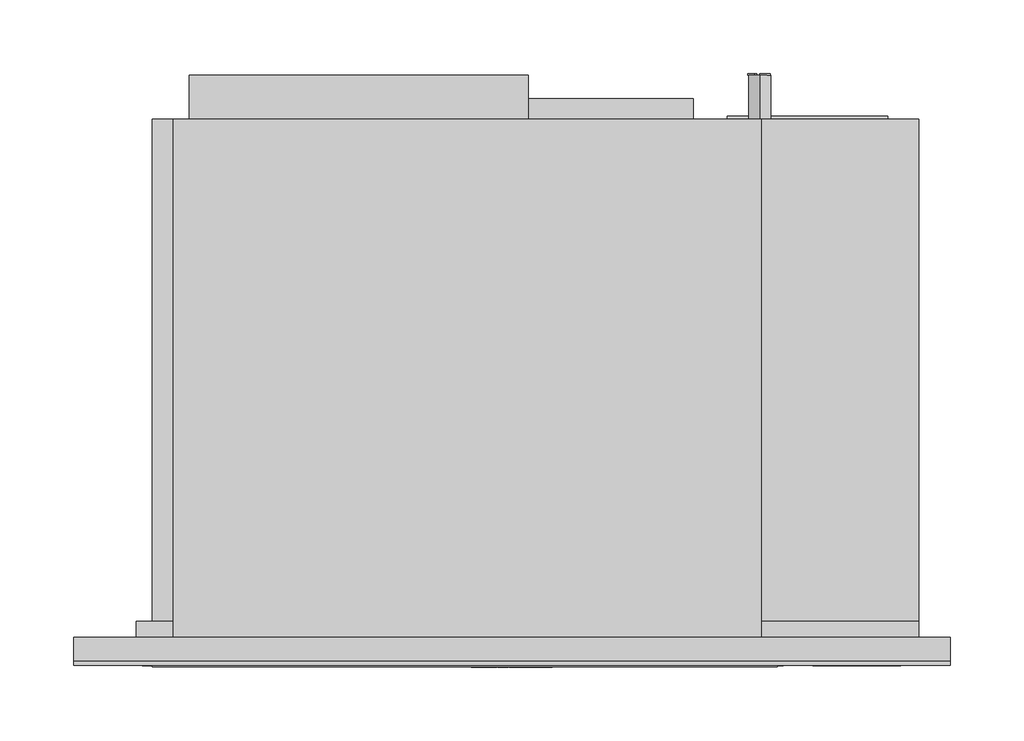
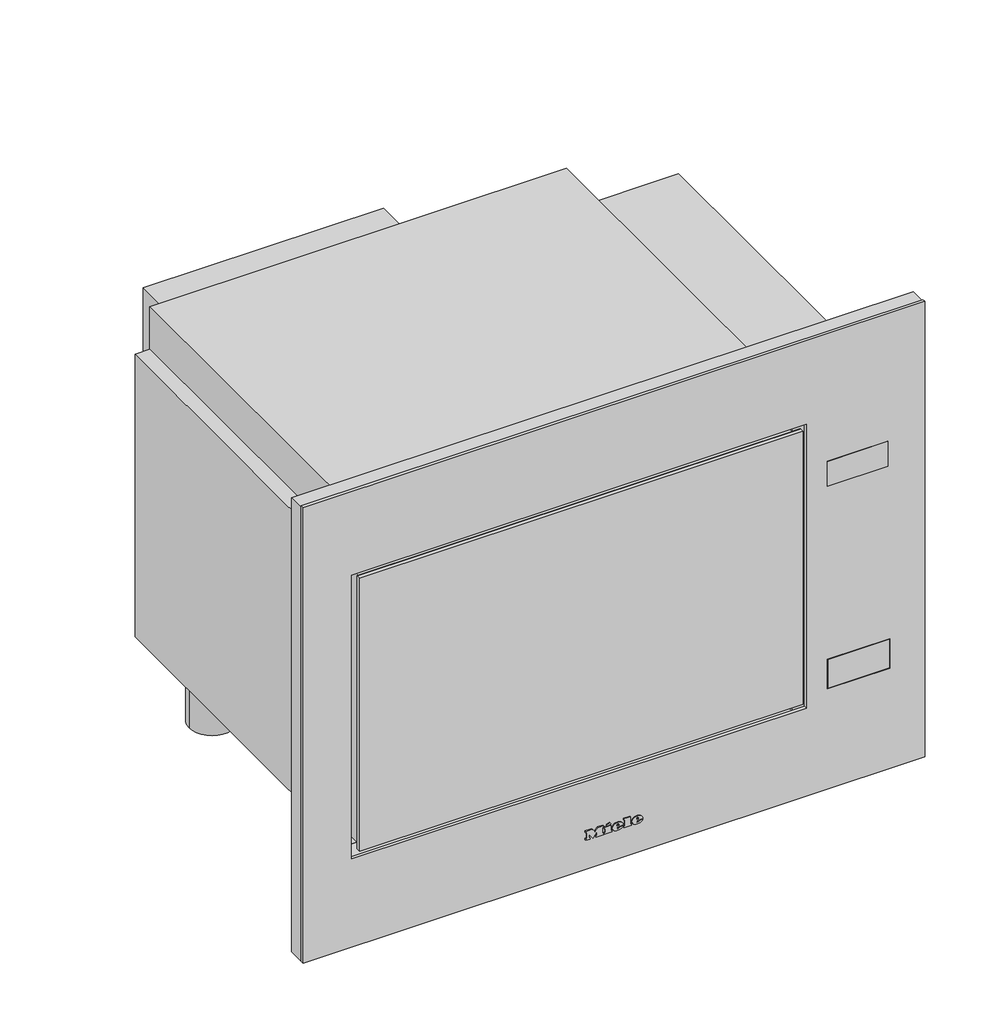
# Not in any storey: 1 proxy.
"""IFC4 building model written with IfcOpenShell, lengths in millimetres."""

import ifcopenshell
import ifcopenshell.guid

model = None  # the IFC model being written
_history = None  # IfcOwnerHistory: only IFC2X3 demands one
_inside = {}  # id of a spatial element -> (the spatial element, [elements in it])
_under = {}  # id of a project, library or spatial element -> (it, [spatial elements below it])
_declared = {}  # id of a project -> (the project, [libraries it declares])
_typed = {}  # id of a type object -> (the type object, [elements of that type])
_made_of = {}  # id of a material, layer set ... -> (it, [elements and type objects made of it])


def new_model(schema):
    """Start an empty IFC model of exactly this schema.

    Asked for "IFC4X3", IfcOpenShell would pick the latest addendum, in which some entities
    have other attributes; the version numbers below select the first issue.
    IFC2X3 requires an IfcOwnerHistory on every rooted entity: one is made here for all.
    """
    global model, _history
    if schema == "IFC4X3":
        model = ifcopenshell.file(schema_version=(4, 3, 0, 0))
    else:
        model = ifcopenshell.file(schema=schema)
    _inside.clear()
    _under.clear()
    _declared.clear()
    _typed.clear()
    _made_of.clear()
    _history = None
    if model.schema == "IFC2X3":
        org = make("IfcOrganization", Name="unknown")
        user = make(
            "IfcPersonAndOrganization",
            ThePerson=make("IfcPerson", FamilyName="unknown"),
            TheOrganization=org,
        )
        app = make(
            "IfcApplication",
            ApplicationDeveloper=org,
            Version="unknown",
            ApplicationFullName="unknown",
            ApplicationIdentifier="unknown",
        )
        _history = make(
            "IfcOwnerHistory",
            OwningUser=user,
            OwningApplication=app,
            ChangeAction="ADDED",
            CreationDate=0,
        )
    return model


def make(cls, **values):
    """One entity of the class cls with the attributes given. An attribute that is None is left unset."""
    return model.create_entity(
        cls, **{name: value for name, value in values.items() if value is not None}
    )


def rooted(cls, **values):
    """An entity with a GlobalId (a new one), such as an element, a storey or a relation."""
    return make(cls, GlobalId=ifcopenshell.guid.new(), OwnerHistory=_history, **values)


def si_unit(unit_type, name, prefix=None):
    """IfcSIUnit, for example si_unit("LENGTHUNIT", "METRE", prefix="MILLI")."""
    return make("IfcSIUnit", UnitType=unit_type, Prefix=prefix, Name=name)


def assignment(units):
    """IfcUnitAssignment: the units of a project."""
    return None if units is None else make("IfcUnitAssignment", Units=units)


def point(xyz):
    """IfcCartesianPoint."""
    return None if xyz is None else make("IfcCartesianPoint", Coordinates=xyz)


def direction(xyz):
    """IfcDirection."""
    return None if xyz is None else make("IfcDirection", DirectionRatios=xyz)


def frame(location, z_axis=None, x_axis=None):
    """IfcAxis2Placement3D, a coordinate frame: its origin and axes. An axis left out is left unset."""
    return make(
        "IfcAxis2Placement3D",
        Location=point(location),
        Axis=direction(z_axis),
        RefDirection=direction(x_axis),
    )


def frame_2d(location, x_axis=None):
    """IfcAxis2Placement2D, a coordinate frame in the plane: its origin and x axis."""
    return make(
        "IfcAxis2Placement2D", Location=point(location), RefDirection=direction(x_axis)
    )


def origin():
    """The frame at (0, 0, 0) with its axes left unset."""
    return frame((0.0, 0.0, 0.0))


def origin_with_axes():
    """The frame at (0, 0, 0) with the z axis (0, 0, 1) and the x axis (1, 0, 0) written out."""
    return frame((0.0, 0.0, 0.0), z_axis=(0.0, 0.0, 1.0), x_axis=(1.0, 0.0, 0.0))


def place(relative_to, where):
    """IfcLocalPlacement: puts the frame where relative to a parent placement (None: the world)."""
    return make(
        "IfcLocalPlacement", PlacementRelTo=relative_to, RelativePlacement=where
    )


def context(
    kind, dimensions, precision=None, world=None, true_north=None, identifier=None
):
    """IfcGeometricRepresentationContext, for example the 3D "Model" context."""
    return make(
        "IfcGeometricRepresentationContext",
        ContextIdentifier=identifier,
        ContextType=kind,
        CoordinateSpaceDimension=dimensions,
        Precision=precision,
        WorldCoordinateSystem=world,
        TrueNorth=true_north,
    )


def project(units=None, contexts=None):
    """IfcProject with its units and contexts."""
    return rooted(
        "IfcProject",
        Name="project",
        RepresentationContexts=contexts,
        UnitsInContext=assignment(units),
    )


def spatial(cls, under=None, at=None, **own):
    """A site, building, storey or space (cls), placed at a placement, below another one or the project."""
    s = rooted(cls, ObjectPlacement=at, **own)
    if under is not None:
        _under.setdefault(under.id(), (under, []))[1].append(s)
    return s


def polyline(points):
    """IfcPolyline through the points."""
    return make("IfcPolyline", Points=[point(p) for p in points])


def circle_curve(where, radius):
    """IfcCircle in the frame where."""
    return make("IfcCircle", Position=where, Radius=radius)


def ellipse_curve(where, semi_axis1, semi_axis2):
    """IfcEllipse in the frame where."""
    return make(
        "IfcEllipse", Position=where, SemiAxis1=semi_axis1, SemiAxis2=semi_axis2
    )


def trimmed(basis, trim1, trim2, sense, master):
    """IfcTrimmedCurve: the piece of a basis curve between two trims."""
    return make(
        "IfcTrimmedCurve",
        BasisCurve=basis,
        Trim1=trim1,
        Trim2=trim2,
        SenseAgreement=sense,
        MasterRepresentation=master,
    )


def segment(curve, same_sense, transition):
    """IfcCompositeCurveSegment."""
    return make(
        "IfcCompositeCurveSegment",
        Transition=transition,
        SameSense=same_sense,
        ParentCurve=curve,
    )


def composite_curve(segments, self_intersect=None):
    """IfcCompositeCurve: segments joined end to end."""
    return make("IfcCompositeCurve", Segments=segments, SelfIntersect=self_intersect)


def outline(outer, holes=None, kind="AREA"):
    """IfcArbitraryClosedProfileDef: a profile drawn as a closed curve; with holes, ...WithVoids."""
    if holes is None:
        return make("IfcArbitraryClosedProfileDef", ProfileType=kind, OuterCurve=outer)
    return make(
        "IfcArbitraryProfileDefWithVoids",
        ProfileType=kind,
        OuterCurve=outer,
        InnerCurves=holes,
    )


def extrude(swept, where, along, depth):
    """IfcExtrudedAreaSolid: the profile swept, set in the frame where, extruded along a direction by depth."""
    return make(
        "IfcExtrudedAreaSolid",
        SweptArea=swept,
        Position=where,
        ExtrudedDirection=direction(along),
        Depth=depth,
    )


def faces_of(points, faces, orient=None, outer=None):
    """IfcFace entities. A face is a list of loops; a loop is a list of indices into points, from 0.

    orient and outer hold one flag for each loop. By default every Orientation is true, the
    first loop of a face is its IfcFaceOuterBound and the others are IfcFaceBound.
    """
    made = []
    for i, loops in enumerate(faces):
        bounds = []
        for j, loop in enumerate(loops):
            is_outer = j == 0 if outer is None else outer[i][j]
            bounds.append(
                make(
                    "IfcFaceOuterBound" if is_outer else "IfcFaceBound",
                    Bound=make("IfcPolyLoop", Polygon=[points[k] for k in loop]),
                    Orientation=True if orient is None else orient[i][j],
                )
            )
        made.append(make("IfcFace", Bounds=bounds))
    return made


def faceted_brep(points, faces, orient=None, outer=None, voids=None):
    """IfcFacetedBrep: a solid bounded by flat faces; with voids (closed shells), ...WithVoids."""
    shared = [point(p) for p in points]
    hull = make("IfcClosedShell", CfsFaces=faces_of(shared, faces, orient, outer))
    if voids is None:
        return make("IfcFacetedBrep", Outer=hull)
    return make(
        "IfcFacetedBrepWithVoids",
        Outer=hull,
        Voids=[
            make(cls, CfsFaces=faces_of(shared, fs, o, b)) for cls, fs, o, b in voids
        ],
    )


def shape(context_of_items, identifier, shape_type, items):
    """IfcShapeRepresentation: the items that make up one representation, for example the "Body"."""
    return make(
        "IfcShapeRepresentation",
        ContextOfItems=context_of_items,
        RepresentationIdentifier=identifier,
        RepresentationType=shape_type,
        Items=items,
    )


def source(mapping_origin, context_of_items, identifier, shape_type, items):
    """IfcRepresentationMap: a shape defined once, which mapped items show again and again."""
    return make(
        "IfcRepresentationMap",
        MappingOrigin=mapping_origin,
        MappedRepresentation=shape(context_of_items, identifier, shape_type, items),
    )


def transform(
    local_origin,
    x_axis=None,
    y_axis=None,
    z_axis=None,
    scale=None,
    scale2=None,
    scale3=None,
    uniform=True,
):
    """IfcCartesianTransformationOperator3D, or its non-uniform kind. x_axis, y_axis, z_axis: its Axis1, 2, 3."""
    if uniform:
        return make(
            "IfcCartesianTransformationOperator3D",
            Axis1=direction(x_axis),
            Axis2=direction(y_axis),
            LocalOrigin=point(local_origin),
            Scale=scale,
            Axis3=direction(z_axis),
        )
    return make(
        "IfcCartesianTransformationOperator3DnonUniform",
        Axis1=direction(x_axis),
        Axis2=direction(y_axis),
        LocalOrigin=point(local_origin),
        Scale=scale,
        Axis3=direction(z_axis),
        Scale2=scale2,
        Scale3=scale3,
    )


def mapped(mapping_source, mapping_target):
    """IfcMappedItem: shows the shape of a source again, moved by a transform."""
    return make(
        "IfcMappedItem", MappingSource=mapping_source, MappingTarget=mapping_target
    )


def made_of(thing, what):
    """Note that an element or type object is made of a material, layer set ...; save() writes the relation."""
    if what is not None:
        _made_of.setdefault(what.id(), (what, []))[1].append(thing)
    return thing


def element(
    cls,
    number,
    at=None,
    inside=None,
    cuts=None,
    type_object=None,
    material=None,
    context=None,
    identifier="Body",
    shape_type=None,
    held_by="IfcProductDefinitionShape",
    body=None,
    shapes=None,
    **own,
):
    """One element of the class cls, such as IfcWall. Its Tag is "e" and its number.

    at: its placement. inside: the storey or other place that contains it. cuts: it is an
    opening in that element (IfcRelVoidsElement). A single representation is given by context,
    identifier, shape_type and body (its items); several are given by shapes. held_by: the class
    of the entity that holds the representations. save() writes the other relations.
    """
    e = rooted(cls, Tag="e%d" % number, ObjectPlacement=at, **own)
    if body is not None:
        shapes = [shape(context, identifier, shape_type, body)]
    if shapes is not None:
        e.Representation = make(held_by, Representations=shapes)
    if inside is not None:
        _inside.setdefault(inside.id(), (inside, []))[1].append(e)
    if cuts is not None:
        rooted(
            "IfcRelVoidsElement", RelatingBuildingElement=cuts, RelatedOpeningElement=e
        )
    if type_object is not None:
        _typed.setdefault(type_object.id(), (type_object, []))[1].append(e)
    return made_of(e, material)


def aggregate(whole, parts):
    """IfcRelAggregates: a whole, such as a stair, and the parts it consists of."""
    return rooted("IfcRelAggregates", RelatingObject=whole, RelatedObjects=parts)


def save(model, path):
    """Write the relations noted so far, then the file.

    IfcRelAggregates (storeys below a building ...), IfcRelContainedInSpatialStructure (elements
    in a storey), IfcRelDefinesByType, IfcRelAssociatesMaterial and IfcRelDeclares: one each for
    every whole, place, type object, material and project.
    """
    for whole, parts in _under.values():
        aggregate(whole, parts)
    for where, things in _inside.values():
        rooted(
            "IfcRelContainedInSpatialStructure",
            RelatedElements=things,
            RelatingStructure=where,
        )
    for kind, things in _typed.values():
        rooted("IfcRelDefinesByType", RelatedObjects=things, RelatingType=kind)
    for what, things in _made_of.values():
        rooted("IfcRelAssociatesMaterial", RelatedObjects=things, RelatingMaterial=what)
    for by, libraries in _declared.values():
        rooted("IfcRelDeclares", RelatingContext=by, RelatedDefinitions=libraries)
    model.write(path)


def plane_surface(at):
    """IfcPlane: the flat surface through the origin of the frame at, square to its z axis."""
    return make("IfcPlane", Position=at)


def cylinder_surface(at, radius):
    """IfcCylindricalSurface: all points at the distance radius from the z axis of the frame at."""
    return make("IfcCylindricalSurface", Position=at, Radius=radius)


def revolved_surface(curve, axis_point, axis_direction):
    """IfcSurfaceOfRevolution: the curve turned about the line through axis_point along axis_direction."""
    return make(
        "IfcSurfaceOfRevolution",
        SweptCurve=make("IfcArbitraryOpenProfileDef", ProfileType="CURVE", Curve=curve),
        AxisPosition=make("IfcAxis1Placement", Location=point(axis_point), Axis=direction(axis_direction)),
    )


def extruded_surface(curve, direction_of_extrusion, depth):
    """IfcSurfaceOfLinearExtrusion: the curve pushed along a direction by depth."""
    return make(
        "IfcSurfaceOfLinearExtrusion",
        SweptCurve=make("IfcArbitraryOpenProfileDef", ProfileType="CURVE", Curve=curve),
        ExtrudedDirection=direction(direction_of_extrusion),
        Depth=depth,
    )


def advanced_brep(points, edges, surfaces, faces):
    """IfcAdvancedBrep: a solid bounded by faces that lie on surfaces and meet in shared edges.

    An edge is (start, end): straight between two places in points (the first is 0);
    or (start, end, curve); or (start, end, curve, False) where it runs against its curve.
    A face is (place in surfaces, loops), or (place, loops, False) where it looks against
    its surface's normal. A loop lists edges by number (the first is 1), with a minus sign
    where the edge is run from its end to its start. The first loop is the outer one.
    """
    corners = [point(p) for p in points]
    vertices = [make("IfcVertexPoint", VertexGeometry=c) for c in corners]
    made = []
    for start, end, *more in edges:
        made.append(
            make(
                "IfcEdgeCurve",
                EdgeStart=vertices[start],
                EdgeEnd=vertices[end],
                EdgeGeometry=more[0] if more else make("IfcPolyline", Points=[corners[start], corners[end]]),
                SameSense=more[1] if len(more) > 1 else True,
            )
        )
    hull = []
    for where, loops, *sense in faces:
        bounds = []
        for j, loop in enumerate(loops):
            ring = [make("IfcOrientedEdge", EdgeElement=made[abs(k) - 1], Orientation=k > 0) for k in loop]
            bounds.append(
                make(
                    "IfcFaceOuterBound" if j == 0 else "IfcFaceBound",
                    Bound=make("IfcEdgeLoop", EdgeList=ring),
                    Orientation=True,
                )
            )
        hull.append(make("IfcAdvancedFace", Bounds=bounds, FaceSurface=surfaces[where], SameSense=sense[0] if sense else True))
    return make("IfcAdvancedBrep", Outer=make("IfcClosedShell", CfsFaces=hull))


def specialty_equipment_8418b30c(model_context):
    return source(origin(), model_context, "Body", "SolidModel", [
        advanced_brep(
        [(21.28, -20.0, 27.133), (21.28, -20.0, 28.042), (27.301, -20.0, 28.042), (16.825, -20.0, 28.042), (19.3, -20.0, 25.0), (27.148, -20.0, 27.133), (24.43, -20.0, 27.133), (22.288, -20.0, 26.125), (21.28, -20.0, 29.194), (21.28, -20.0, 30.175), (22.819, -20.0, 30.175), (22.819, -20.0, 29.194), (21.28, -19.0, 27.133), (22.288, -19.0, 26.125), (24.43, -19.0, 27.133), (27.148, -19.0, 27.133), (19.3, -19.0, 25.0), (16.825, -19.0, 28.042), (27.301, -19.0, 28.042), (21.28, -19.0, 28.042), (21.28, -19.0, 29.194), (22.819, -19.0, 29.194), (22.819, -19.0, 30.175), (21.28, -19.0, 30.175)],
        [
            (0, 1),
            (1, 2),
            (2, 3, ellipse_curve(frame((22.063, -20.0, 28.042), z_axis=(0.0, -1.0, 0.0), x_axis=(-1.0, 0.0, 0.0)), 5.238, 4.329)),
            (3, 4, circle_curve(frame((20.3080491, -20.0, 28.348), z_axis=(0.0, -1.0, 0.0), x_axis=(0.0, 0.0, -1.0)), 3.4964649)),
            (4, 5, circle_curve(frame((21.9581428, -20.0, 30.724), z_axis=(0.0, -1.0, 0.0), x_axis=(0.0, 0.0, -1.0)), 6.3110933)),
            (5, 6),
            (6, 7, circle_curve(frame((22.7279412, -20.0, 27.97), z_axis=(0.0, 1.0, 0.0), x_axis=(0.0, 0.0, -1.0)), 1.896727)),
            (7, 0, circle_curve(frame((22.288, -20.0, 27.133), z_axis=(0.0, 1.0, 0.0), x_axis=(0.0, 0.0, -1.0)), 1.008)),
            (8, 9),
            (9, 10, circle_curve(frame((22.0495, -20.0, 30.175), z_axis=(0.0, 1.0, 0.0), x_axis=(0.0, 0.0, -1.0)), 0.7695)),
            (10, 11),
            (11, 8),
            (12, 13, circle_curve(frame((22.288, -19.0, 27.133), z_axis=(0.0, -1.0, 0.0), x_axis=(0.0, 0.0, -1.0)), 1.008)),
            (13, 14, circle_curve(frame((22.7279412, -19.0, 27.97), z_axis=(0.0, -1.0, 0.0), x_axis=(0.0, 0.0, -1.0)), 1.896727)),
            (14, 15),
            (15, 16, circle_curve(frame((21.9581428, -19.0, 30.724), z_axis=(0.0, 1.0, 0.0), x_axis=(0.0, 0.0, -1.0)), 6.3110933)),
            (16, 17, circle_curve(frame((20.3080491, -19.0, 28.348), z_axis=(0.0, 1.0, 0.0), x_axis=(0.0, 0.0, -1.0)), 3.4964649)),
            (17, 18, ellipse_curve(frame((22.063, -19.0, 28.042), z_axis=(0.0, 1.0, 0.0), x_axis=(-1.0, 0.0, 0.0)), 5.238, 4.329)),
            (18, 19),
            (19, 12),
            (20, 21),
            (21, 22),
            (22, 23, circle_curve(frame((22.0495, -19.0, 30.175), z_axis=(0.0, -1.0, 0.0), x_axis=(0.0, 0.0, -1.0)), 0.7695)),
            (23, 20),
            (0, 12),
            (19, 1),
            (18, 2),
            (5, 15),
            (14, 6),
            (17, 3),
            (13, 7),
            (16, 4),
            (8, 20),
            (23, 9),
            (22, 10),
            (21, 11),
        ],
        [
            plane_surface(frame((21.28, -20.0, 28.042), z_axis=(0.0, -1.0, 0.0), x_axis=(0.0, 0.0, 1.0))),
            plane_surface(frame((21.28, -19.0, 28.042), z_axis=(0.0, 1.0, 0.0), x_axis=(0.0, 0.0, -1.0))),
            plane_surface(frame((21.28, -20.0, 27.133), z_axis=(1.0, 0.0, 0.0), x_axis=(0.0, 1.0, 0.0))),
            plane_surface(frame((21.28, -20.0, 28.042), z_axis=(0.0, 0.0, -1.0), x_axis=(0.0, 1.0, 0.0))),
            plane_surface(frame((27.148, -20.0, 27.133), z_axis=(0.0, 0.0, 1.0), x_axis=(0.0, 1.0, 0.0))),
            extruded_surface(trimmed(ellipse_curve(frame((22.063, -18.0, 28.042), z_axis=(0.0, -1.0, 0.0), x_axis=(-1.0, 0.0, 0.0)), 5.238, 4.329), [point((27.301, -18.0, 28.042))], [point((16.825, -18.0, 28.042))], True, "CARTESIAN"), (0.0, -1.0, 0.0), 1.0),
            revolved_surface(polyline([(22.7279412, -19.0, 26.073273), (22.7279412, -20.0, 26.073273)]), (22.7279412, -19.0, 27.97), (0.0, 1.0, 0.0)),
            revolved_surface(polyline([(22.288, -19.0, 26.125), (22.288, -20.0, 26.125)]), (22.288, -19.0, 27.133), (0.0, 1.0, 0.0)),
            cylinder_surface(frame((20.3080491, -19.0, 28.348), z_axis=(0.0, -1.0, 0.0), x_axis=(0.0, 0.0, -1.0)), 3.4964649),
            cylinder_surface(frame((21.9581428, -19.0, 30.724), z_axis=(0.0, -1.0, 0.0), x_axis=(0.0, 0.0, -1.0)), 6.3110933),
            plane_surface(frame((21.28, -20.0, 29.194), z_axis=(1.0, 0.0, 0.0), x_axis=(0.0, 1.0, 0.0))),
            revolved_surface(polyline([(22.0495, -19.0, 29.4055), (22.0495, -20.0, 29.4055)]), (22.0495, -19.0, 30.175), (0.0, 1.0, 0.0)),
            plane_surface(frame((22.819, -20.0, 30.175), z_axis=(-1.0, 0.0, 0.0), x_axis=(0.0, 1.0, 0.0))),
            plane_surface(frame((22.819, -20.0, 29.194), z_axis=(0.0, 0.0, 1.0), x_axis=(0.0, 1.0, 0.0))),
        ],
        [
            (0, [[1, 2, 3, 4, 5, 6, 7, 8], [9, 10, 11, 12]]),
            (1, [[13, 14, 15, 16, 17, 18, 19, 20], [21, 22, 23, 24]]),
            (2, [[-1, 25, -20, 26]]),
            (3, [[-2, -26, -19, 27]]),
            (4, [[-6, 28, -15, 29]]),
            (5, [[-3, -27, -18, 30]]),
            (6, [[-7, -29, -14, 31]]),
            (7, [[-8, -31, -13, -25]]),
            (8, [[-4, -30, -17, 32]]),
            (9, [[-5, -32, -16, -28]]),
            (10, [[-9, 33, -24, 34]]),
            (11, [[-10, -34, -23, 35]]),
            (12, [[-11, -35, -22, 36]]),
            (13, [[-12, -36, -21, -33]]),
        ],
    ),
        advanced_brep(
        [(2.497, -20.0, 27.133), (2.497, -20.0, 28.042), (8.518, -20.0, 28.042), (-1.958, -20.0, 28.042), (0.517, -20.0, 25.0), (8.365, -20.0, 27.133), (5.647, -20.0, 27.133), (3.505, -20.0, 26.125), (2.497, -20.0, 29.194), (2.497, -20.0, 30.175), (4.036, -20.0, 30.175), (4.036, -20.0, 29.194), (2.497, -19.0, 27.133), (3.505, -19.0, 26.125), (5.647, -19.0, 27.133), (8.365, -19.0, 27.133), (0.517, -19.0, 25.0), (-1.958, -19.0, 28.042), (8.518, -19.0, 28.042), (2.497, -19.0, 28.042), (2.497, -19.0, 29.194), (4.036, -19.0, 29.194), (4.036, -19.0, 30.175), (2.497, -19.0, 30.175)],
        [
            (0, 1),
            (1, 2),
            (2, 3, ellipse_curve(frame((3.28, -20.0, 28.042), z_axis=(0.0, -1.0, 0.0), x_axis=(-1.0, 0.0, 0.0)), 5.238, 4.329)),
            (3, 4, circle_curve(frame((1.5250491, -20.0, 28.348), z_axis=(0.0, -1.0, 0.0), x_axis=(0.0, 0.0, -1.0)), 3.4964649)),
            (4, 5, circle_curve(frame((3.1751428, -20.0, 30.724), z_axis=(0.0, -1.0, 0.0), x_axis=(0.0, 0.0, -1.0)), 6.3110933)),
            (5, 6),
            (6, 7, circle_curve(frame((3.9449412, -20.0, 27.97), z_axis=(0.0, 1.0, 0.0), x_axis=(0.0, 0.0, -1.0)), 1.896727)),
            (7, 0, circle_curve(frame((3.505, -20.0, 27.133), z_axis=(0.0, 1.0, 0.0), x_axis=(0.0, 0.0, -1.0)), 1.008)),
            (8, 9),
            (9, 10, circle_curve(frame((3.2665, -20.0, 30.175), z_axis=(0.0, 1.0, 0.0), x_axis=(0.0, 0.0, -1.0)), 0.7695)),
            (10, 11),
            (11, 8),
            (12, 13, circle_curve(frame((3.505, -19.0, 27.133), z_axis=(0.0, -1.0, 0.0), x_axis=(0.0, 0.0, -1.0)), 1.008)),
            (13, 14, circle_curve(frame((3.9449412, -19.0, 27.97), z_axis=(0.0, -1.0, 0.0), x_axis=(0.0, 0.0, -1.0)), 1.896727)),
            (14, 15),
            (15, 16, circle_curve(frame((3.1751428, -19.0, 30.724), z_axis=(0.0, 1.0, 0.0), x_axis=(0.0, 0.0, -1.0)), 6.3110933)),
            (16, 17, circle_curve(frame((1.5250491, -19.0, 28.348), z_axis=(0.0, 1.0, 0.0), x_axis=(0.0, 0.0, -1.0)), 3.4964649)),
            (17, 18, ellipse_curve(frame((3.28, -19.0, 28.042), z_axis=(0.0, 1.0, 0.0), x_axis=(-1.0, 0.0, 0.0)), 5.238, 4.329)),
            (18, 19),
            (19, 12),
            (20, 21),
            (21, 22),
            (22, 23, circle_curve(frame((3.2665, -19.0, 30.175), z_axis=(0.0, -1.0, 0.0), x_axis=(0.0, 0.0, -1.0)), 0.7695)),
            (23, 20),
            (0, 12),
            (19, 1),
            (18, 2),
            (5, 15),
            (14, 6),
            (17, 3),
            (13, 7),
            (16, 4),
            (8, 20),
            (23, 9),
            (22, 10),
            (21, 11),
        ],
        [
            plane_surface(frame((2.497, -20.0, 28.042), z_axis=(0.0, -1.0, 0.0), x_axis=(0.0, 0.0, 1.0))),
            plane_surface(frame((2.497, -19.0, 28.042), z_axis=(0.0, 1.0, 0.0), x_axis=(0.0, 0.0, -1.0))),
            plane_surface(frame((2.497, -20.0, 27.133), z_axis=(1.0, 0.0, 0.0), x_axis=(0.0, 1.0, 0.0))),
            plane_surface(frame((2.497, -20.0, 28.042), z_axis=(0.0, 0.0, -1.0), x_axis=(0.0, 1.0, 0.0))),
            plane_surface(frame((8.365, -20.0, 27.133), z_axis=(0.0, 0.0, 1.0), x_axis=(0.0, 1.0, 0.0))),
            extruded_surface(trimmed(ellipse_curve(frame((3.28, -18.0, 28.042), z_axis=(0.0, -1.0, 0.0), x_axis=(-1.0, 0.0, 0.0)), 5.238, 4.329), [point((8.518, -18.0, 28.042))], [point((-1.958, -18.0, 28.042))], True, "CARTESIAN"), (0.0, -1.0, 0.0), 1.0),
            revolved_surface(polyline([(3.9449412, -19.0, 26.073273), (3.9449412, -20.0, 26.073273)]), (3.9449412, -19.0, 27.97), (0.0, 1.0, 0.0)),
            revolved_surface(polyline([(3.505, -19.0, 26.125), (3.505, -20.0, 26.125)]), (3.505, -19.0, 27.133), (0.0, 1.0, 0.0)),
            cylinder_surface(frame((1.5250491, -19.0, 28.348), z_axis=(0.0, -1.0, 0.0), x_axis=(0.0, 0.0, -1.0)), 3.4964649),
            cylinder_surface(frame((3.1751428, -19.0, 30.724), z_axis=(0.0, -1.0, 0.0), x_axis=(0.0, 0.0, -1.0)), 6.3110933),
            plane_surface(frame((2.497, -20.0, 29.194), z_axis=(1.0, 0.0, 0.0), x_axis=(0.0, 1.0, 0.0))),
            revolved_surface(polyline([(3.2665, -19.0, 29.4055), (3.2665, -20.0, 29.4055)]), (3.2665, -19.0, 30.175), (0.0, 1.0, 0.0)),
            plane_surface(frame((4.036, -20.0, 30.175), z_axis=(-1.0, 0.0, 0.0), x_axis=(0.0, 1.0, 0.0))),
            plane_surface(frame((4.036, -20.0, 29.194), z_axis=(0.0, 0.0, 1.0), x_axis=(0.0, 1.0, 0.0))),
        ],
        [
            (0, [[1, 2, 3, 4, 5, 6, 7, 8], [9, 10, 11, 12]]),
            (1, [[13, 14, 15, 16, 17, 18, 19, 20], [21, 22, 23, 24]]),
            (2, [[-1, 25, -20, 26]]),
            (3, [[-2, -26, -19, 27]]),
            (4, [[-6, 28, -15, 29]]),
            (5, [[-3, -27, -18, 30]]),
            (6, [[-7, -29, -14, 31]]),
            (7, [[-8, -31, -13, -25]]),
            (8, [[-4, -30, -17, 32]]),
            (9, [[-5, -32, -16, -28]]),
            (10, [[-9, 33, -24, 34]]),
            (11, [[-10, -34, -23, 35]]),
            (12, [[-11, -35, -22, 36]]),
            (13, [[-12, -36, -21, -33]]),
        ],
    ),
        extrude(outline(polyline([(33.469, -7.34), (32.011, -6.656), (33.433, -3.605), (34.891, -4.28), (33.469, -7.34)])), frame((0.0, -20.0, 0.0), z_axis=(0.0, 1.0, 0.0), x_axis=(0.0, 0.0, 1.0)), (0.0, 0.0, 1.0), 1.0),
        extrude(outline(polyline([(31.813, -9.563), (30.202, -9.563), (30.202, -8.492), (26.512, -8.492), (26.512, -9.563), (25.0, -9.563), (25.0, -2.462), (26.512, -2.462), (26.512, -3.506), (31.813, -3.506), (31.813, -9.563)])), frame((0.0, -20.0, 0.0), z_axis=(0.0, 1.0, 0.0), x_axis=(0.0, 0.0, 1.0)), (0.0, 0.0, 1.0), 1.0),
        extrude(outline(polyline([(32.533, 9.022), (32.533, 10.102), (26.512, 10.102), (26.512, 9.022), (25.0, 9.022), (25.0, 16.321), (26.512, 16.321), (26.512, 15.214), (34.0, 15.214), (34.0, 9.022), (32.533, 9.022)])), frame((0.0, -20.0, 0.0), z_axis=(0.0, 1.0, 0.0), x_axis=(0.0, 0.0, 1.0)), (0.0, 0.0, 1.0), 1.0),
        extrude(outline(polyline([(32.533, -27.5), (32.533, -26.411), (26.512, -26.411), (26.512, -27.5), (25.0, -27.5), (25.0, -23.54), (26.512, -23.54), (26.512, -24.62), (30.3341247, -24.62), (25.0, -20.597), (30.4402223, -16.556), (26.512, -16.556), (26.512, -17.663), (25.0, -17.663), (25.0, -10.481), (26.512, -10.481), (26.512, -11.624), (32.533, -11.624), (32.533, -10.481), (34.0, -10.481), (34.0, -15.962), (30.625, -18.59), (34.0, -21.227), (34.0, -27.5), (32.533, -27.5)])), frame((0.0, -20.0, 0.0), z_axis=(0.0, 1.0, 0.0), x_axis=(0.0, 0.0, 1.0)), (0.0, 0.0, 1.0), 1.0),
        extrude(outline(polyline([(204.5, -16.0), (263.5, -16.0), (263.5, -19.0), (204.5, -19.0), (204.5, -16.0)])), frame((0.0, 0.0, 97.0), z_axis=(0.0, 0.0, 1.0), x_axis=(1.0, 0.0, 0.0)), (0.0, 0.0, 1.0), 29.0),
        extrude(outline(polyline([(204.0, -18.8), (262.0, -18.8), (262.0, -19.1), (204.0, -19.1), (204.0, -18.8)])), frame((0.0, 0.0, 301.5), z_axis=(0.0, 0.0, 1.0), x_axis=(1.0, 0.0, 0.0)), (0.0, 0.0, 1.0), 25.0),
        extrude(outline(polyline([(455.5, 297.5), (455.5, -297.5), (-5.0, -297.5), (-5.0, 297.5), (455.5, 297.5)]), holes=[polyline([(371.0, 184.0), (84.0, 184.0), (84.0, -251.0), (371.0, -251.0), (371.0, 184.0)]), polyline([(126.5, 264.0), (96.5, 264.0), (96.5, 204.0), (126.5, 204.0), (126.5, 264.0)])]), frame((0.0, -19.0, 0.0), z_axis=(0.0, 1.0, 0.0), x_axis=(0.0, 0.0, 1.0)), (0.0, 0.0, 1.0), 3.0),
        extrude(outline(polyline([(-243.0, 10.0), (180.0, 10.0), (180.0, -16.0), (-243.0, -16.0), (-243.0, 10.0)])), frame((0.0, 0.0, 95.0), z_axis=(0.0, 0.0, 1.0), x_axis=(1.0, 0.0, 0.0)), (0.0, 0.0, 1.0), 271.0),
        extrude(outline(polyline([(-244.0, -16.0), (180.0, -16.0), (180.0, -20.0), (-244.0, -20.0), (-244.0, -16.0)])), frame((0.0, 0.0, 90.0), z_axis=(0.0, 0.0, 1.0), x_axis=(1.0, 0.0, 0.0)), (0.0, 0.0, 1.0), 276.0),
        extrude(outline(polyline([(-219.0, 382.0), (11.0, 382.0), (11.0, 352.0), (-219.0, 352.0), (-219.0, 382.0)])), frame((0.0, 0.0, 336.0), z_axis=(0.0, 0.0, 1.0), x_axis=(1.0, 0.0, 0.0)), (0.0, 0.0, 1.0), 71.0),
        extrude(outline(polyline([(348.0536781, 168.1660444), (346.7952065, 168.1660444), (346.7952065, 174.1269959), (343.8028248, 174.1269959), (343.8028248, 168.4835385), (342.5487231, 168.4835385), (342.5487231, 174.1269959), (339.2630117, 174.1269959), (339.2630117, 168.0), (338.0, 168.0), (338.0, 175.3757838), (348.0536781, 175.3757838), (348.0536781, 168.1660444)])), frame((0.0, 382.0, 0.0), z_axis=(0.0, 1.0, 0.0), x_axis=(0.0, 0.0, 1.0)), (0.0, 0.0, 1.0), 1.0),
        extrude(outline(polyline([(348.0536781, 164.8530432), (339.2543004, 164.8530432), (339.2543004, 159.8378502), (338.0, 159.8378502), (338.0, 166.1246692), (348.0536781, 166.1246692), (348.0536781, 164.8530432)])), frame((0.0, 382.0, 0.0), z_axis=(0.0, 1.0, 0.0), x_axis=(0.0, 0.0, 1.0)), (0.0, 0.0, 1.0), 1.0),
        extrude(outline(composite_curve([segment(trimmed(circle_curve(frame_2d((343.0, 168.0)), 7.5), [point((335.5, 168.0))], [point((350.5, 168.0))], False, "CARTESIAN"), True, "CONTINUOUS"), segment(trimmed(circle_curve(frame_2d((343.0, 168.0)), 7.5), [point((350.5, 168.0))], [point((335.5, 168.0))], False, "CARTESIAN"), True, "CONTINUOUS")], self_intersect=False)), frame((0.0, 352.0, 0.0), z_axis=(0.0, 1.0, 0.0), x_axis=(0.0, 0.0, 1.0)), (0.0, 0.0, 1.0), 30.0),
        extrude(outline(composite_curve([segment(trimmed(circle_curve(frame_2d((-191.0, 61.0)), 22.0), [point((-169.0, 61.0))], [point((-213.0, 61.0))], False, "CARTESIAN"), True, "CONTINUOUS"), segment(trimmed(circle_curve(frame_2d((-191.0, 61.0)), 22.0), [point((-213.0, 61.0))], [point((-169.0, 61.0))], False, "CARTESIAN"), True, "CONTINUOUS")], self_intersect=False)), origin_with_axes(), (0.0, 0.0, 1.0), 81.0),
        extrude(outline(composite_curve([segment(trimmed(circle_curve(frame_2d((229.0, 61.0)), 22.0), [point((251.0, 61.0))], [point((207.0, 61.0))], False, "CARTESIAN"), True, "CONTINUOUS"), segment(trimmed(circle_curve(frame_2d((229.0, 61.0)), 22.0), [point((207.0, 61.0))], [point((251.0, 61.0))], False, "CARTESIAN"), True, "CONTINUOUS")], self_intersect=False)), origin_with_axes(), (0.0, 0.0, 1.0), 81.0),
        extrude(outline(composite_curve([segment(trimmed(circle_curve(frame_2d((229.0, 316.0)), 22.0), [point((251.0, 316.0))], [point((207.0, 316.0))], False, "CARTESIAN"), True, "CONTINUOUS"), segment(trimmed(circle_curve(frame_2d((229.0, 316.0)), 22.0), [point((207.0, 316.0))], [point((251.0, 316.0))], False, "CARTESIAN"), True, "CONTINUOUS")], self_intersect=False)), origin_with_axes(), (0.0, 0.0, 1.0), 81.0),
        extrude(outline(composite_curve([segment(trimmed(circle_curve(frame_2d((-191.0, 316.0)), 22.0), [point((-169.0, 316.0))], [point((-213.0, 316.0))], False, "CARTESIAN"), True, "CONTINUOUS"), segment(trimmed(circle_curve(frame_2d((-191.0, 316.0)), 22.0), [point((-213.0, 316.0))], [point((-169.0, 316.0))], False, "CARTESIAN"), True, "CONTINUOUS")], self_intersect=False)), origin_with_axes(), (0.0, 0.0, 1.0), 81.0),
        faceted_brep([(172.0, 10.0, 371.0), (-253.0, 10.0, 371.0), (-253.0, 10.0, 84.0), (172.0, 10.0, 84.0), (127.0, 10.0, 327.0), (127.0, 10.0, 121.0), (-209.0, 10.0, 121.0), (-209.0, 10.0, 327.0), (172.0, 0.0, 84.0), (172.0, 0.0, 371.0), (-253.0, 0.0, 84.0), (-253.0, 0.0, 371.0), (-255.0, 11.0, 81.0), (-255.0, 11.0, 372.0), (-230.0, 11.0, 372.0), (-230.0, 11.0, 367.0), (-244.0, 11.0, 367.0), (-244.0, 11.0, 81.0), (169.0, 11.0, 372.0), (276.0, 11.0, 372.0), (276.0, 11.0, 367.0), (169.0, 11.0, 367.0), (-255.0, 0.0, 372.0), (-255.0, 0.0, 81.0), (276.0, 0.0, 81.0), (276.0, 0.0, 372.0), (169.0, 0.0, 372.0), (169.0, 0.0, 410.0), (-230.0, 0.0, 410.0), (-230.0, 0.0, 372.0), (276.0, 352.0, 81.0), (276.0, 352.0, 367.0), (-244.0, 352.0, 81.0), (127.0, 350.0, 327.0), (-209.0, 350.0, 327.0), (-209.0, 350.0, 121.0), (127.0, 350.0, 121.0), (-244.0, 352.0, 367.0), (-230.0, 352.0, 367.0), (-230.0, 352.0, 410.0), (169.0, 352.0, 410.0), (169.0, 352.0, 367.0)], [[[0, 1, 2, 3], [4, 5, 6, 7]], [[0, 3, 8, 9]], [[3, 2, 10, 8]], [[2, 1, 11, 10]], [[1, 0, 9, 11]], [[12, 13, 14, 15, 16, 17]], [[18, 19, 20, 21]], [[22, 23, 24, 25, 26, 27, 28, 29], [9, 8, 10, 11]], [[25, 19, 18, 26]], [[13, 22, 29, 14]], [[19, 25, 24, 30, 31, 20]], [[23, 12, 17, 32, 30, 24]], [[13, 12, 23, 22]], [[33, 34, 35, 36]], [[33, 36, 5, 4]], [[36, 35, 6, 5]], [[35, 34, 7, 6]], [[34, 33, 4, 7]], [[30, 32, 37, 38, 39, 40, 41, 31]], [[37, 32, 17, 16]], [[38, 37, 16, 15]], [[39, 38, 15, 14, 29, 28]], [[28, 27, 40, 39]], [[41, 40, 27, 26, 18, 21]], [[31, 41, 21, 20]]]),
        extrude(outline(polyline([(146.0, 354.0), (255.0, 354.0), (255.0, 352.0), (146.0, 352.0), (146.0, 354.0)])), frame((0.0, 0.0, 152.1865515), z_axis=(0.0, 0.0, 1.0), x_axis=(1.0, 0.0, 0.0)), (0.0, 0.0, 1.0), 164.8134485),
        extrude(outline(polyline([(-205.0, 366.0), (123.0, 366.0), (123.0, 352.0), (-205.0, 352.0), (-205.0, 366.0)])), frame((0.0, 0.0, 124.0), z_axis=(0.0, 0.0, 1.0), x_axis=(1.0, 0.0, 0.0)), (0.0, 0.0, 1.0), 169.0),
        extrude(outline(polyline([(454.0, 297.5), (454.0, -297.5), (-5.0, -297.5), (-5.0, 297.5), (454.0, 297.5)]), holes=[polyline([(371.0, 172.0), (84.0, 172.0), (84.0, -253.0), (371.0, -253.0), (371.0, 172.0)])]), frame((0.0, -16.0, 0.0), z_axis=(0.0, 1.0, 0.0), x_axis=(0.0, 0.0, 1.0)), (0.0, 0.0, 1.0), 16.0),
    ])


model = new_model("IFC4")

# Units and contexts
model_context = context("Model", 3, world=origin())
ifc_project = project(units=[si_unit("LENGTHUNIT", "METRE", prefix="MILLI")], contexts=[model_context])

# Site, building
site = spatial("IfcSite", under=ifc_project)
building = spatial("IfcBuilding", under=site)

# Proxy
placement = place(None, origin())
specialty_equipment_shape = specialty_equipment_8418b30c(model_context)
element("IfcBuildingElementProxy", 1, Name="11134170_AUS_M2240SC_OBSW : 24224020_AUS_11134170_M2240SC_OBSW", ObjectType="11134170_AUS_M2240SC_OBSW : 24224020_AUS_11134170_M2240SC_OBSW", at=placement, inside=building, context=model_context, shape_type="MappedRepresentation", body=[
    mapped(specialty_equipment_shape, transform((0.0, 0.0, 0.0), x_axis=(1.0, 0.0, 0.0), y_axis=(0.0, 1.0, 0.0), z_axis=(0.0, 0.0, 1.0))),
])

save(model, "model.ifc")
